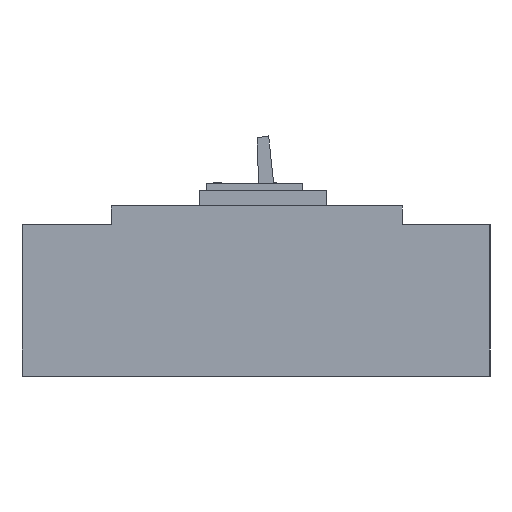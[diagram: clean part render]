
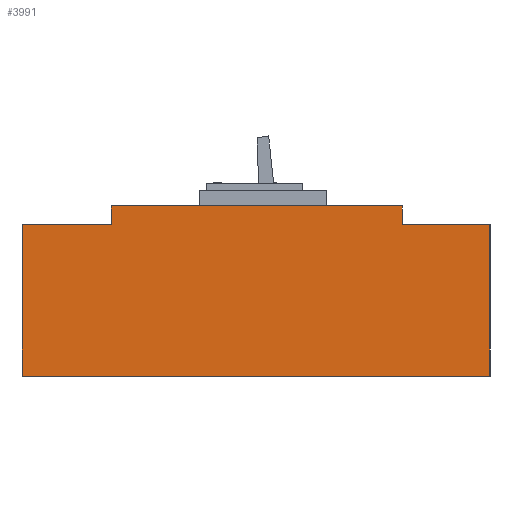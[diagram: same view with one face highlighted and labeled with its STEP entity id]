
A CAD part, left-side view. The second image highlights one B-rep face of the part: STEP entity #3991.
In plain terms, the highlighted planar face has unit normal (-1, 0, 0).
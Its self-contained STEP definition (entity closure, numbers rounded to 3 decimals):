
#71 = CARTESIAN_POINT ( 'NONE',  ( -52.5, 51., 53.5 ) ) ;
#114 = VERTEX_POINT ( 'NONE', #1153 ) ;
#265 = EDGE_CURVE ( 'NONE', #4820, #3607, #300, .T. ) ;
#300 = LINE ( 'NONE', #5170, #5797 ) ;
#355 = ORIENTED_EDGE ( 'NONE', *, *, #5222, .F. ) ;
#492 = LINE ( 'NONE', #1955, #5330 ) ;
#497 = CARTESIAN_POINT ( 'NONE',  ( -52.5, -51.5, 60. ) ) ;
#803 = ORIENTED_EDGE ( 'NONE', *, *, #4042, .T. ) ;
#1057 = AXIS2_PLACEMENT_3D ( 'NONE', #5238, #4189, #4729 ) ;
#1153 = CARTESIAN_POINT ( 'NONE',  ( -52.5, -82.5, 53.5 ) ) ;
#1208 = EDGE_CURVE ( 'NONE', #3234, #2012, #4762, .T. ) ;
#1393 = VECTOR ( 'NONE', #6705, 1000. ) ;
#1663 = VECTOR ( 'NONE', #6035, 1000. ) ;
#1669 = ORIENTED_EDGE ( 'NONE', *, *, #265, .F. ) ;
#1810 = CARTESIAN_POINT ( 'NONE',  ( -52.5, -82.5, 0. ) ) ;
#1887 = EDGE_CURVE ( 'NONE', #5208, #6253, #6430, .T. ) ;
#1955 = CARTESIAN_POINT ( 'NONE',  ( -52.5, 82.5, 53.5 ) ) ;
#2012 = VERTEX_POINT ( 'NONE', #1810 ) ;
#2414 = CARTESIAN_POINT ( 'NONE',  ( -52.5, 82.5, 0. ) ) ;
#2555 = VECTOR ( 'NONE', #4543, 1000. ) ;
#2984 = CARTESIAN_POINT ( 'NONE',  ( -52.5, 82.5, 53.5 ) ) ;
#3035 = VERTEX_POINT ( 'NONE', #6078 ) ;
#3113 = DIRECTION ( 'NONE',  ( 0., -1., 0. ) ) ;
#3170 = DIRECTION ( 'NONE',  ( 0., 0., -1. ) ) ;
#3199 = EDGE_CURVE ( 'NONE', #6253, #114, #492, .T. ) ;
#3234 = VERTEX_POINT ( 'NONE', #6252 ) ;
#3370 = VECTOR ( 'NONE', #6154, 1000. ) ;
#3528 = DIRECTION ( 'NONE',  ( 0., -1., 0. ) ) ;
#3554 = VECTOR ( 'NONE', #3724, 1000. ) ;
#3607 = VERTEX_POINT ( 'NONE', #71 ) ;
#3724 = DIRECTION ( 'NONE',  ( 0., -1., 0. ) ) ;
#3798 = ORIENTED_EDGE ( 'NONE', *, *, #5684, .T. ) ;
#3810 = EDGE_CURVE ( 'NONE', #114, #2012, #5662, .T. ) ;
#3855 = CARTESIAN_POINT ( 'NONE',  ( -52.5, -51.5, 60. ) ) ;
#3971 = LINE ( 'NONE', #2984, #2555 ) ;
#3991 = ADVANCED_FACE ( 'NONE', ( #4904 ), #4168, .F. ) ;
#4042 = EDGE_CURVE ( 'NONE', #3035, #3607, #5578, .T. ) ;
#4168 = PLANE ( 'NONE',  #1057 ) ;
#4183 = CARTESIAN_POINT ( 'NONE',  ( -52.5, -51.5, 60. ) ) ;
#4189 = DIRECTION ( 'NONE',  ( 1., 0., 0. ) ) ;
#4254 = EDGE_LOOP ( 'NONE', ( #6122, #5299, #6641, #4357, #355, #803, #1669, #3798 ) ) ;
#4332 = VECTOR ( 'NONE', #3170, 1000. ) ;
#4357 = ORIENTED_EDGE ( 'NONE', *, *, #1887, .F. ) ;
#4543 = DIRECTION ( 'NONE',  ( 0., 0., -1. ) ) ;
#4546 = CARTESIAN_POINT ( 'NONE',  ( -52.5, -82.5, 53.5 ) ) ;
#4729 = DIRECTION ( 'NONE',  ( 0., 1., 0. ) ) ;
#4762 = LINE ( 'NONE', #2414, #3370 ) ;
#4820 = VERTEX_POINT ( 'NONE', #5452 ) ;
#4904 = FACE_OUTER_BOUND ( 'NONE', #4254, .T. ) ;
#5170 = CARTESIAN_POINT ( 'NONE',  ( -52.5, 82.5, 53.5 ) ) ;
#5208 = VERTEX_POINT ( 'NONE', #497 ) ;
#5222 = EDGE_CURVE ( 'NONE', #3035, #5208, #5561, .T. ) ;
#5238 = CARTESIAN_POINT ( 'NONE',  ( -52.5, 82.5, 53.5 ) ) ;
#5299 = ORIENTED_EDGE ( 'NONE', *, *, #3810, .F. ) ;
#5330 = VECTOR ( 'NONE', #3113, 1000. ) ;
#5452 = CARTESIAN_POINT ( 'NONE',  ( -52.5, 82.5, 53.5 ) ) ;
#5561 = LINE ( 'NONE', #4183, #3554 ) ;
#5578 = LINE ( 'NONE', #6432, #4332 ) ;
#5662 = LINE ( 'NONE', #4546, #1393 ) ;
#5684 = EDGE_CURVE ( 'NONE', #4820, #3234, #3971, .T. ) ;
#5797 = VECTOR ( 'NONE', #3528, 1000. ) ;
#6035 = DIRECTION ( 'NONE',  ( 0., 0., -1. ) ) ;
#6078 = CARTESIAN_POINT ( 'NONE',  ( -52.5, 51., 60. ) ) ;
#6122 = ORIENTED_EDGE ( 'NONE', *, *, #1208, .T. ) ;
#6154 = DIRECTION ( 'NONE',  ( 0., -1., 0. ) ) ;
#6194 = CARTESIAN_POINT ( 'NONE',  ( -52.5, -51.5, 53.5 ) ) ;
#6252 = CARTESIAN_POINT ( 'NONE',  ( -52.5, 82.5, 0. ) ) ;
#6253 = VERTEX_POINT ( 'NONE', #6194 ) ;
#6430 = LINE ( 'NONE', #3855, #1663 ) ;
#6432 = CARTESIAN_POINT ( 'NONE',  ( -52.5, 51., 60. ) ) ;
#6641 = ORIENTED_EDGE ( 'NONE', *, *, #3199, .F. ) ;
#6705 = DIRECTION ( 'NONE',  ( 0., 0., -1. ) ) ;
